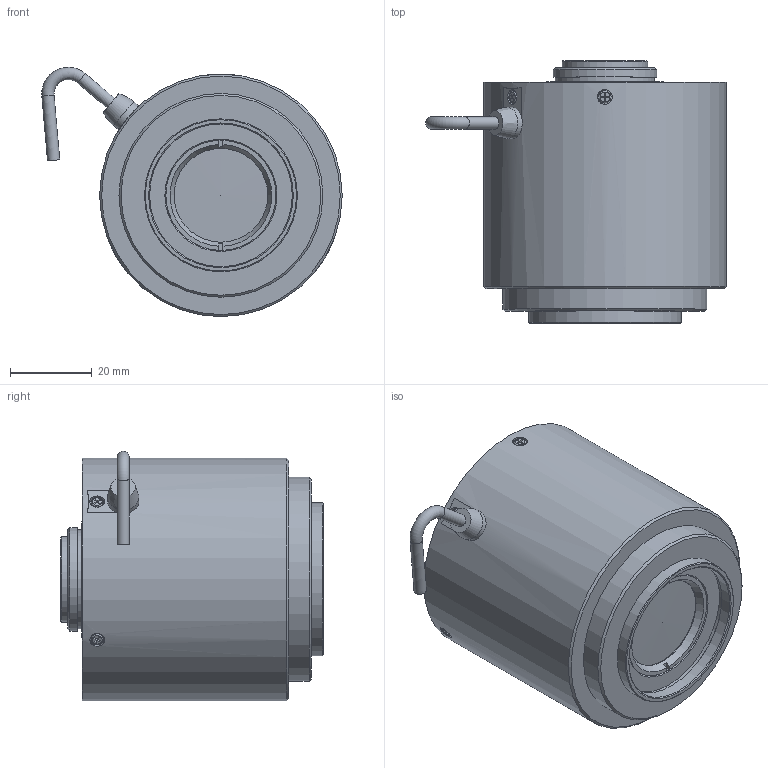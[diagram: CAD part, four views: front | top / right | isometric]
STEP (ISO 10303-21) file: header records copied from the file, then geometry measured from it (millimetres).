
FILE_DESCRIPTION(('STEP AP214'),'1');
FILE_NAME('DL1623UC-MPY.stp','2023-08-24T06:35:41',(' '),(' '),'Spatial InterOp 3D',' ',' ');
FILE_SCHEMA(('AUTOMOTIVE_DESIGN { 1 0 10303 214 1 1 1 1 }'));
Length unit declared in the file: metre
Products named in the file (2): DL1623UC-MPY; Component1
Assembly tree (1 placements, depth 2):
  DL1623UC-MPY
    Component1
Bounding box: 73.69 x 64.39 x 61.13 mm (x, y, z)
Volume: 152450.7 mm3; surface area: 17922.1 mm2
Topology: 1 solids, 6 shells, 279 faces, 668 edges, 439 vertices
Faces by surface type: plane 194, cylinder 53, cone 20, torus 9, sphere 2, bspline 1
Full cylindrical faces by diameter (mm): 1 x2, 2 x4, 2.2 x4, 3 x10, 3.6 x4, 3.8 x4, 7.699 x1, 13.6 x1, 14.221 x1, 21 x1, 23 x1, 24.3 x1, 25.4 x1, 29 x1, 35 x1, 35.5 x1, 37.5 x1, 50 x1, 59.5 x1
Entity records: 10012 total; most frequent: CARTESIAN_POINT 1551, DIRECTION 1243, ORIENTED_EDGE 1156, EDGE_CURVE 578, LINE 441, VECTOR 441, VERTEX_POINT 422, AXIS2_PLACEMENT_3D 401
